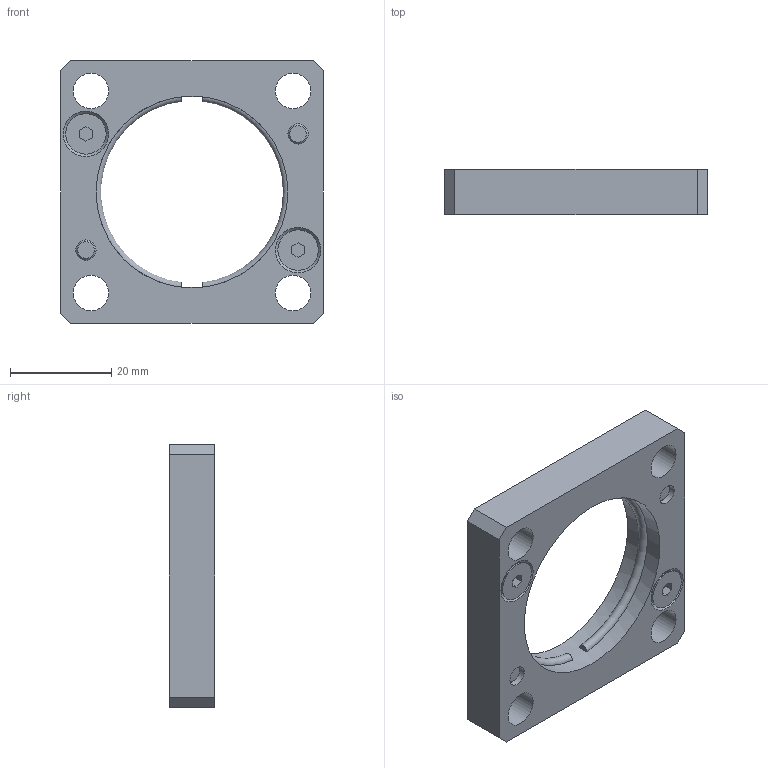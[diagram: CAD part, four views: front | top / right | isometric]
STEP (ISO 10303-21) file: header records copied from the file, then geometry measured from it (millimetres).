
FILE_DESCRIPTION(/* description */ (''),/* implementation_level */ '2;1');
FILE_NAME(/* name */ 'C:\Users\Jefferson\Desktop\Biblioteca Pro Nitro 2024 - Inventor\Flanges\PNB-65-XXX\PNB-65-038.stp',/* time_stamp */ '2024-12-30T13:38:09-03:00',/* author */ ('Jefferson'),/* organization */ (''),/* preprocessor_version */ 'ST-DEVELOPER v19',/* originating_system */ 'Autodesk Inventor 2023',/* authorisation */ '');
FILE_SCHEMA (('AUTOMOTIVE_DESIGN { 1 0 10303 214 3 1 1 }'));
Length unit declared in the file: millimetre
Products named in the file (3): PNB-65-038; DNB-0016-038; DIN 7991 - M4x8
Assembly tree (5 placements, depth 2):
  PNB-65-038
    DNB-0016-038
    DIN 7991 - M4x8  x4
Bounding box: 52 x 9 x 52 mm (x, y, z)
Volume: 12705.3 mm3; surface area: 7786.4 mm2
Topology: 5 solids, 5 shells, 261 faces, 681 edges, 452 vertices
Faces by surface type: plane 122, bspline 104, cylinder 17, cone 12, torus 6
Full cylindrical faces by diameter (mm): 4 x8, 7 x4, 8 x4, 38 x1
Entity records: 7594 total; most frequent: CARTESIAN_POINT 2621, ORIENTED_EDGE 1170, DIRECTION 659, EDGE_CURVE 585, VERTEX_POINT 389, LINE 333, VECTOR 333, EDGE_LOOP 256
